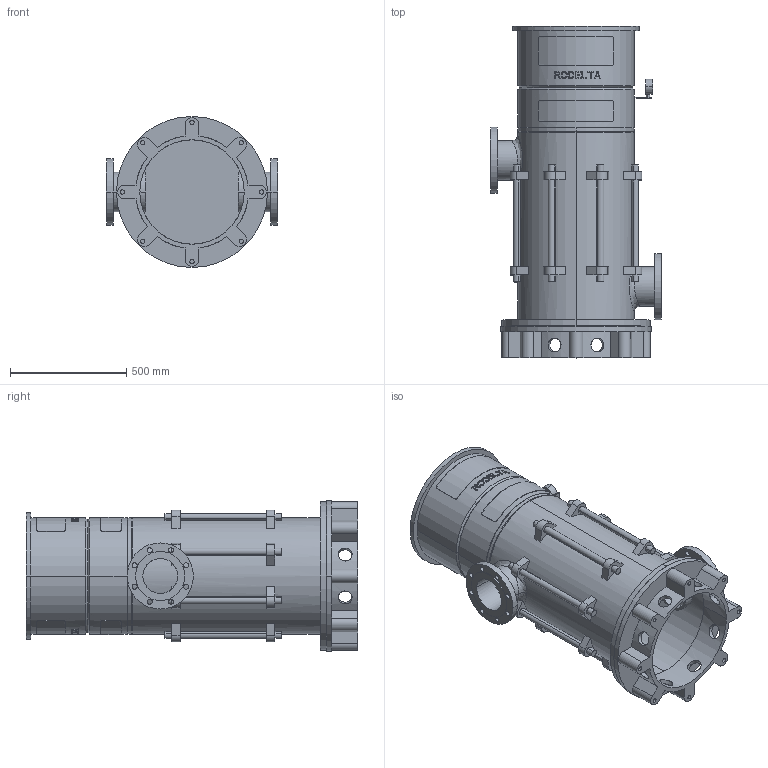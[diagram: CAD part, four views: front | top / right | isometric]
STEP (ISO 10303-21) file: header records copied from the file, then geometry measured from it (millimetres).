
FILE_DESCRIPTION((''),'2;1');
FILE_NAME('LS6_3TR_0GR_PN16_ABOVE_30KW','2025-10-23T12:02:28',('Lyritlocal'),(''),'CREO PARAMETRIC BY PTC INC, 2022014','CREO PARAMETRIC BY PTC INC, 2022014','');
FILE_SCHEMA(('CONFIG_CONTROL_DESIGN'));
Length unit declared in the file: millimetre
Products named in the file (1): LS6_3TR_0GR_PN16_ABOVE_30KW
Bounding box: 740 x 1429 x 650 mm (x, y, z)
Volume: 49703070.7 mm3; surface area: 6671413.3 mm2
Topology: 3 solids, 11 shells, 732 faces, 1889 edges, 1258 vertices
Faces by surface type: plane 438, cylinder 274, cone 12, bspline 8
Entity records: 24250 total; most frequent: CARTESIAN_POINT 6430, ORIENTED_EDGE 3746, DIRECTION 3535, EDGE_CURVE 1889, AXIS2_PLACEMENT_3D 1341, VERTEX_POINT 1258, EDGE_LOOP 895, VECTOR 853
